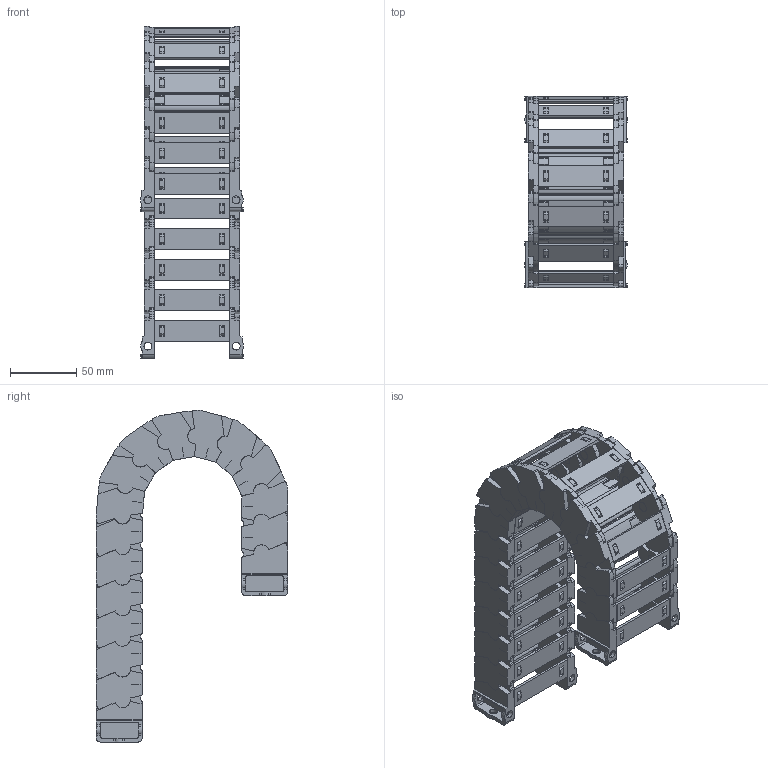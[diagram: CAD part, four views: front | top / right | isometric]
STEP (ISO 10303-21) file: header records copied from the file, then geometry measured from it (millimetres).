
FILE_DESCRIPTION((''),'2;1');
FILE_NAME('JY-25X57-R55_ASM','2022-05-07T10:09:32',('admin'),(''),'CREO PARAMETRIC BY PTC INC, 2021164','CREO PARAMETRIC BY PTC INC, 2021164','');
FILE_SCHEMA(('CONFIG_CONTROL_DESIGN','GEOMETRIC_VALIDATION_PROPERTIES_MIM'));
Length unit declared in the file: millimetre
Products named in the file (11): 25XL-L; 25-35XL-YP; 25XL-R; ASM0001_ASM; 25-LTT-A-L; 25-LTT-A-R; 25XL-LTT-A_ASM; 25-LTT-B-L; 25-LTT-B-R; 25XL-LTT-B_ASM; JY-25X57-R55_ASM
Assembly tree (29 placements, depth 3):
  JY-25X57-R55_ASM
    ASM0001_ASM  x15
      25XL-L
      25-35XL-YP
      25XL-R
    25XL-LTT-A_ASM
      25-LTT-A-L
      25-35XL-YP  x2
      25-LTT-A-R
    25XL-LTT-B_ASM
      25-LTT-B-L
      25-35XL-YP  x2
      25-LTT-B-R
Bounding box: 77.67 x 144.67 x 250.78 mm (x, y, z)
Volume: 287555.8 mm3; surface area: 215570.1 mm2
Topology: 68 solids, 83 shells, 3544 faces, 10581 edges, 7156 vertices
Faces by surface type: plane 2605, cylinder 909, cone 30
Entity records: 24023 total; most frequent: CARTESIAN_POINT 3114, DIRECTION 3009, ORIENTED_EDGE 2962, EDGE_CURVE 1483, PRESENTATION_STYLE_ASSIGNMENT 1413, STYLED_ITEM 1381, VECTOR 1053, LINE 1053
